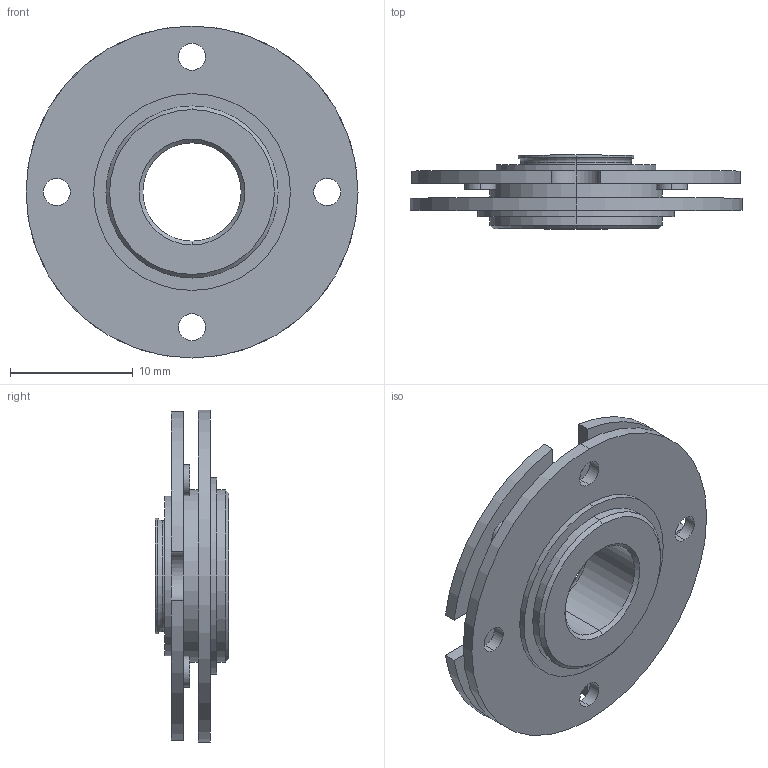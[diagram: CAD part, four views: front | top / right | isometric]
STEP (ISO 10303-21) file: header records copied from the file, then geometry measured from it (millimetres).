
FILE_DESCRIPTION (( 'STEP AP214' ), '1' );
FILE_NAME ('HG301.STEP', '2023-07-20T06:46:32', ( '' ), ( '' ), 'SwSTEP 2.0', 'SolidWorks 2019', '' );
FILE_SCHEMA (( 'AUTOMOTIVE_DESIGN' ));
Length unit declared in the file: millimetre
Products named in the file (1): HG301
Bounding box: 27 x 6 x 27 mm (x, y, z)
Volume: 1310.1 mm3; surface area: 3028.4 mm2
Topology: 4 solids, 4 shells, 137 faces, 337 edges, 216 vertices
Faces by surface type: cylinder 81, plane 24, bspline 24, cone 4, torus 4
Entity records: 9751 total; most frequent: CARTESIAN_POINT 5167, ORIENTED_EDGE 674, DIRECTION 565, EDGE_CURVE 337, AXIS2_PLACEMENT_3D 230, VERTEX_POINT 216, EDGE_LOOP 169, UNCERTAINTY_MEASURE_WITH_UNIT 143
